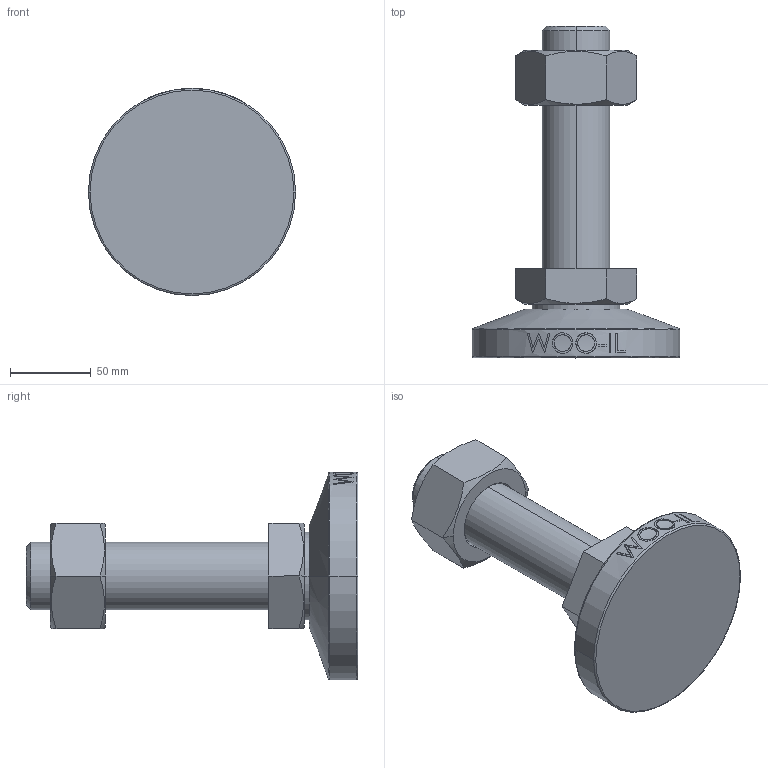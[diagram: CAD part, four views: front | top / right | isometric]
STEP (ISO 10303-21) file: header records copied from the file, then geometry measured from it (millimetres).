
FILE_DESCRIPTION (( 'STEP AP214' ), '1' );
FILE_NAME ('WTrB42-128-Tr42-150.step', '2021-03-16T05:59:46', ( '' ), ( '' ), 'SwSTEP 2.0', 'SolidWorks 2019', '' );
FILE_SCHEMA (( 'AUTOMOTIVE_DESIGN' ));
Length unit declared in the file: millimetre
Products named in the file (2): WTrB42-128-Tr42-150
Bounding box: 128 x 205 x 128 mm (x, y, z)
Volume: 691695.2 mm3; surface area: 81510.4 mm2
Topology: 3 solids, 3 shells, 97 faces, 225 edges, 144 vertices
Faces by surface type: plane 47, cylinder 16, bspline 16, cone 14, torus 4
Entity records: 4494 total; most frequent: CARTESIAN_POINT 2350, ORIENTED_EDGE 450, DIRECTION 387, EDGE_CURVE 225, AXIS2_PLACEMENT_3D 145, VERTEX_POINT 144, EDGE_LOOP 109, FACE_OUTER_BOUND 97
